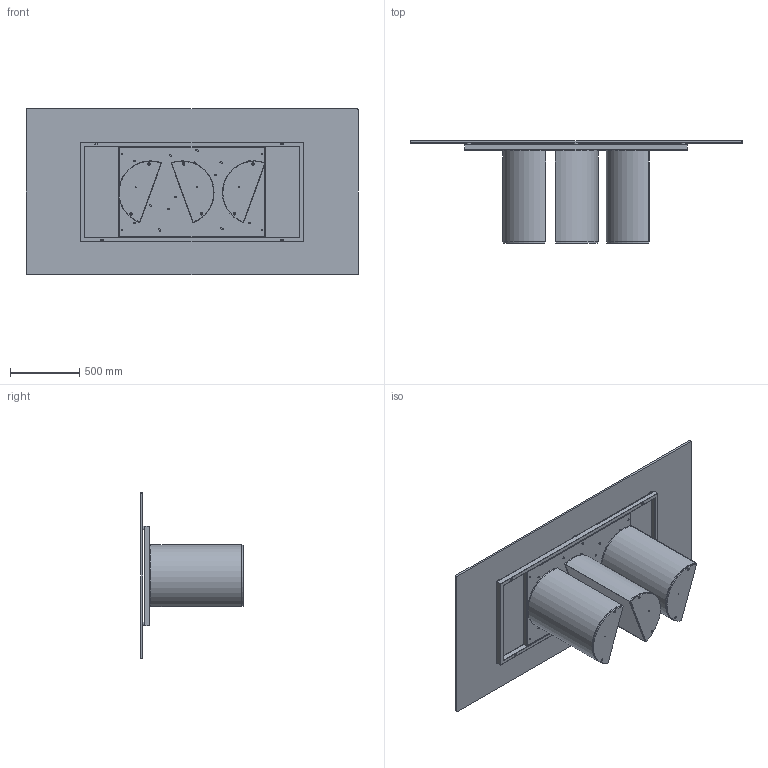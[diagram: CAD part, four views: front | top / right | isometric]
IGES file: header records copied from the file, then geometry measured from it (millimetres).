
Start section: SolidWorks IGES file using analytic representation for surfaces
Global section: file name: Y:\eforma\TECNICO\SOLIDWORKS\E-FORMA\1-TAVOLI\PLAI\02 parts\PL23G.IGS; native system: SolidWorks 2022; preprocessor: SolidWorks 2022; author: eforma.tech; date: 240807.155226; units: millimetre
Bounding box: 2400 x 739 x 1200 mm (x, y, z)
Volume: 55973538.9 mm3; surface area: 14515358.7 mm2
Topology: 48 solids, 48 shells, 1116 faces, 2498 edges, 1460 vertices
Faces by surface type: revolution 645, plane 471
